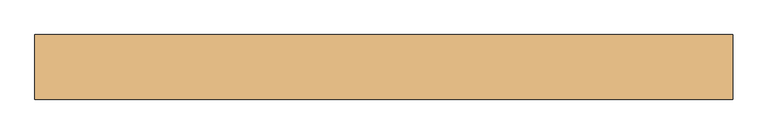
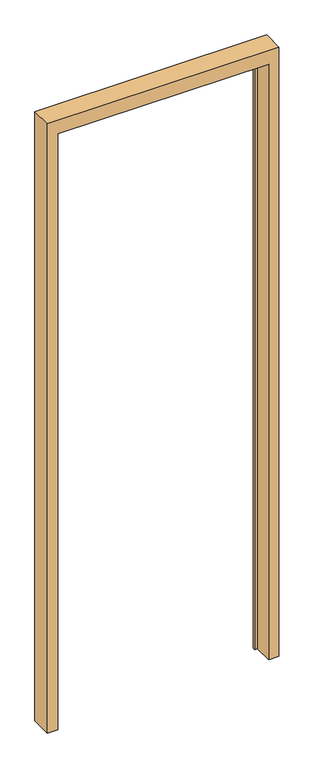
"""IFC4 building model written with IfcOpenShell, lengths in millimetres: door geometry, PNX_PORTE-N-PTH : 94-PTHC61."""

from ifc_helpers import new_model, si_unit, origin, place, context, project, spatial, faceted_brep, source, transform, mapped, element, save


def door_8205e40b(model_context):
    return source(origin(), model_context, "Body", "Brep", [
        faceted_brep([(-500.0, -46.5, 0.0), (-500.0, 46.5, 0.0), (-443.0, 46.5, 0.0), (-443.0, 37.0, 0.0), (-455.0, 37.0, 0.0), (-455.0, -46.5, 0.0), (500.0, 46.5, 0.0), (500.0, -46.5, 0.0), (455.0, -46.5, 0.0), (455.0, 37.0, 0.0), (443.0, 37.0, 0.0), (443.0, 46.5, 0.0), (-500.0, -46.5, 2780.0), (-500.0, 46.5, 2780.0), (500.0, 46.5, 2780.0), (443.0, 46.5, 2707.0), (-443.0, 46.5, 2707.0), (-455.0, 37.0, 2719.0), (-455.0, -46.5, 2719.0), (500.0, -46.5, 2780.0), (455.0, -46.5, 2719.0), (455.0, 37.0, 2719.0), (-443.0, 37.0, 2707.0), (443.0, 37.0, 2707.0)], [[[0, 1, 2, 3, 4, 5]], [[6, 7, 8, 9, 10, 11]], [[12, 13, 1, 0]], [[13, 14, 6, 11, 15, 16, 2, 1]], [[17, 18, 5, 4]], [[19, 12, 0, 5, 18, 20, 8, 7]], [[14, 19, 7, 6]], [[20, 21, 9, 8]], [[19, 14, 13, 12]], [[18, 17, 21, 20]], [[16, 22, 3, 2]], [[21, 17, 4, 3, 22, 23, 10, 9]], [[23, 15, 11, 10]], [[15, 23, 22, 16]]]),
    ])


if __name__ == "__main__":
    model = new_model("IFC4")
    model_context = context("Model", 3, world=origin())
    ifc_project = project(units=[si_unit("LENGTHUNIT", "METRE", prefix="MILLI")], contexts=[model_context])
    site = spatial("IfcSite", under=ifc_project)
    building = spatial("IfcBuilding", under=site)
    placement = place(None, origin())
    door_shape = door_8205e40b(model_context)
    element("IfcDoor", 1, ObjectType="PNX_PORTE-N-PTH : 94-PTHC61", at=placement, inside=building, context=model_context, shape_type="MappedRepresentation", body=[
        mapped(door_shape, transform((0.0, 0.0, 0.0), x_axis=(1.0, 0.0, 0.0), y_axis=(0.0, 1.0, 0.0), z_axis=(0.0, 0.0, 1.0))),
    ])
    save(model, "model.ifc")
